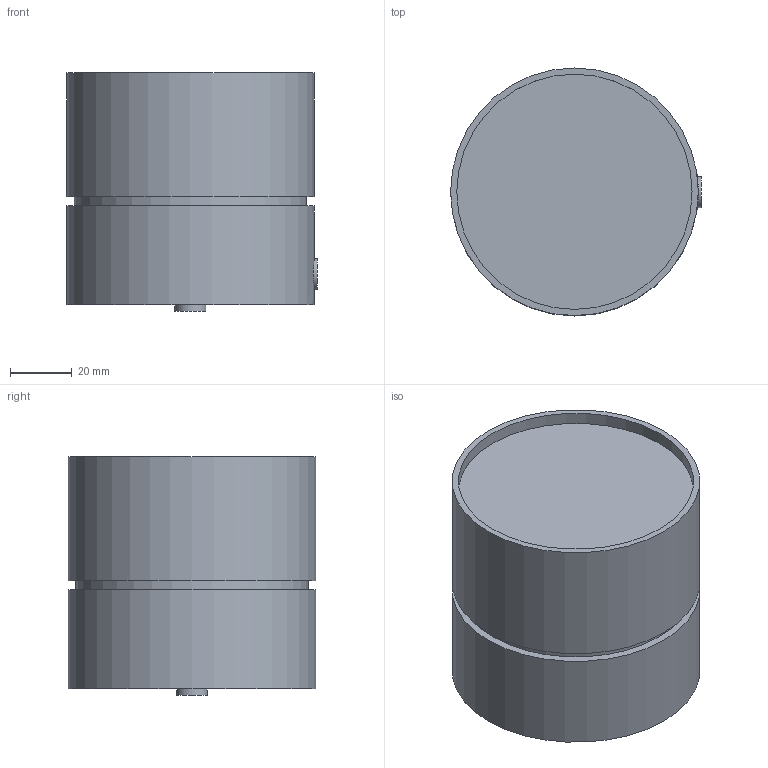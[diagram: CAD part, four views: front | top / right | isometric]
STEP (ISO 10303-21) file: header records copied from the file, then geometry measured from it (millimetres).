
FILE_DESCRIPTION(/* description */ (''),/* implementation_level */ '2;1');
FILE_NAME(/* name */ 'D:\TK Lighting\2021\Space\3398\Space3398.stp',/* time_stamp */ '2021-02-01T20:05:24+01:00',/* author */ ('Admin'),/* organization */ (''),/* preprocessor_version */ 'ST-DEVELOPER v16.5',/* originating_system */ 'Autodesk Inventor 2017',/* authorisation */ '');
FILE_SCHEMA (('AUTOMOTIVE_DESIGN { 1 0 10303 214 3 1 1 }'));
Length unit declared in the file: millimetre
Products named in the file (1): Space3398
Bounding box: 81 x 80 x 77 mm (x, y, z)
Volume: 357261.6 mm3; surface area: 31127 mm2
Topology: 1 solids, 1 shells, 13 faces, 20 edges, 14 vertices
Faces by surface type: plane 7, cylinder 6
Full cylindrical faces by diameter (mm): 10 x2, 75 x1, 76 x1, 80 x2
Entity records: 341 total; most frequent: CARTESIAN_POINT 71, DIRECTION 50, AXIS2_PLACEMENT_3D 25, EDGE_LOOP 24, ORIENTED_EDGE 24, STYLED_ITEM 14, FACE_OUTER_BOUND 13, ADVANCED_FACE 13
